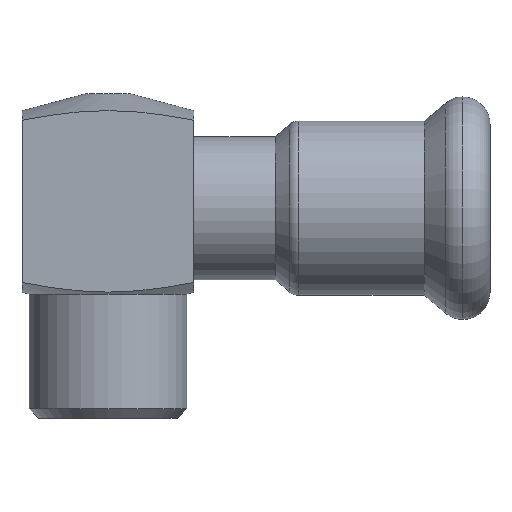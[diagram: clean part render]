
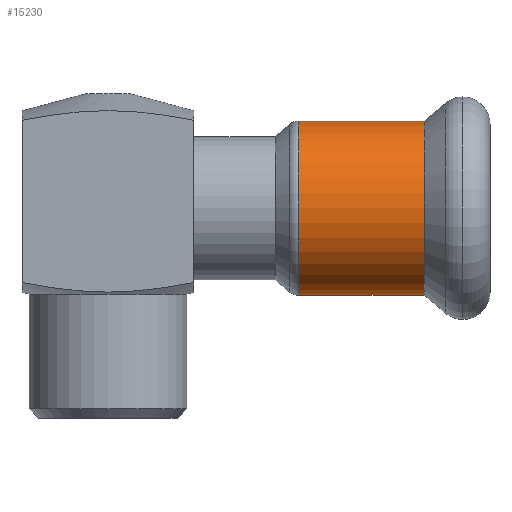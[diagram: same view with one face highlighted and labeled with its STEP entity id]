
A CAD part, top view. The second image highlights one B-rep face of the part: STEP entity #15230.
In plain terms, the highlighted cylindrical face has radius 9.125 mm (diameter 18.25 mm), a partial arc.
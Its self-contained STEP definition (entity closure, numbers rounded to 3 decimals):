
#12120=CARTESIAN_POINT('',(319.983,9.125,0.));
#12130=VERTEX_POINT('',#12120);
#12220=CARTESIAN_POINT('',(319.983,-9.125,0.));
#12230=VERTEX_POINT('',#12220);
#12260=CARTESIAN_POINT('',(319.983,0.,0.));
#12270=DIRECTION('',(-1.,0.,0.));
#12280=DIRECTION('',(0.,1.,0.));
#12290=AXIS2_PLACEMENT_3D('',#12260,#12270,#12280);
#12300=CIRCLE('',#12290,9.125);
#12360=CARTESIAN_POINT('',(326.279,0.,0.));
#12370=DIRECTION('',(-1.,0.,0.));
#12380=DIRECTION('',(0.,1.,0.));
#12390=AXIS2_PLACEMENT_3D('',#12360,#12370,#12380);
#12400=CYLINDRICAL_SURFACE('',#12390,9.125);
#12410=CARTESIAN_POINT('',(326.279,-9.125,
0.));
#12420=DIRECTION('',(-1.,0.,0.));
#12430=VECTOR('',#12420,1.);
#12440=LINE('',#12410,#12430);
#12450=CARTESIAN_POINT('',(333.104,-9.125,
0.));
#12460=VERTEX_POINT('',#12450);
#12470=EDGE_CURVE('',#12460,#12230,#12440,.T.);
#12490=CARTESIAN_POINT('',(333.104,0.,0.));
#12500=DIRECTION('',(1.,0.,0.));
#12510=DIRECTION('',(0.,1.,0.));
#12520=AXIS2_PLACEMENT_3D('',#12490,#12500,#12510);
#12530=CIRCLE('',#12520,9.125);
#12540=CARTESIAN_POINT('',(333.104,9.125,0.));
#12550=VERTEX_POINT('',#12540);
#12580=CARTESIAN_POINT('',(326.279,9.125,0.));
#12590=DIRECTION('',(-1.,0.,0.));
#12600=VECTOR('',#12590,1.);
#12610=LINE('',#12580,#12600);
#12620=EDGE_CURVE('',#12550,#12130,#12610,.T.);
#15070=EDGE_CURVE('',#12550,#12460,#12530,.T.);
#15160=EDGE_CURVE('',#12230,#12130,#12300,.T.);
#15170=ORIENTED_EDGE('',*,*,#15160,.F.);
#15180=ORIENTED_EDGE('',*,*,#12620,.T.);
#15190=ORIENTED_EDGE('',*,*,#15070,.F.);
#15200=ORIENTED_EDGE('',*,*,#12470,.F.);
#15210=EDGE_LOOP('',(#15200,#15190,#15180,#15170));
#15220=FACE_OUTER_BOUND('',#15210,.T.);
#15230=ADVANCED_FACE('',(#15220),#12400,.T.);
